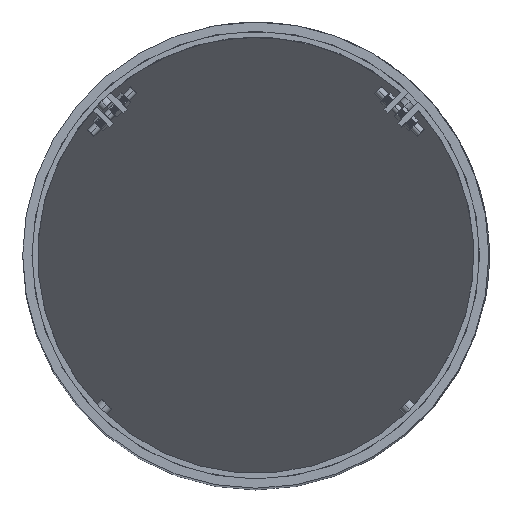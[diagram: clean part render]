
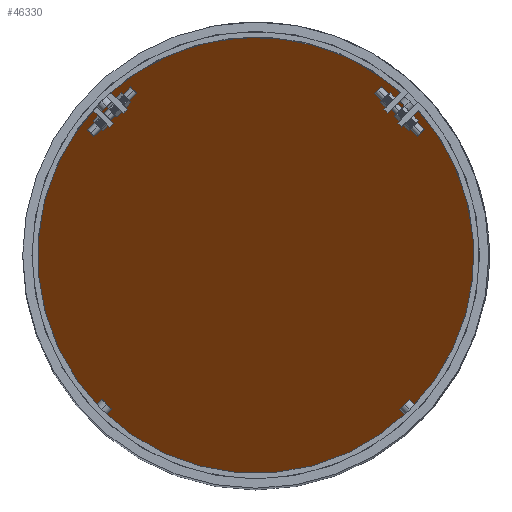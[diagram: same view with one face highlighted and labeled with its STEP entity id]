
A CAD part, top view. The second image highlights one B-rep face of the part: STEP entity #46330.
In plain terms, the highlighted planar face has unit normal (0, -0.707, 0.707).
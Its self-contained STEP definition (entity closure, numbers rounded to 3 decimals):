
#8061 = EDGE_CURVE ( 'NONE', #72363, #20130, #34616, .T. ) ;
#9070 = AXIS2_PLACEMENT_3D ( 'NONE', #50317, #44066, #18854 ) ;
#15579 =( BOUNDED_CURVE ( )  B_SPLINE_CURVE ( 3, ( #73803, #23721, #61850, #62252 ),
 .UNSPECIFIED., .F., .F. ) 
 B_SPLINE_CURVE_WITH_KNOTS ( ( 4, 4 ),
 ( 1.571, 4.712 ),
 .UNSPECIFIED. ) 
 CURVE ( )  GEOMETRIC_REPRESENTATION_ITEM ( )  RATIONAL_B_SPLINE_CURVE ( ( 1., 0.333, 0.333, 1. ) ) 
 REPRESENTATION_ITEM ( '' )  );
#17725 = CARTESIAN_POINT ( 'NONE',  ( -237., 0., 549.328 ) ) ;
#18454 = PLANE ( 'NONE',  #9070 ) ;
#18854 = DIRECTION ( 'NONE',  ( 0., 0.707, 0.707 ) ) ;
#20130 = VERTEX_POINT ( 'NONE', #48321 ) ;
#23721 = CARTESIAN_POINT ( 'NONE',  ( 237., 474., 1023.328 ) ) ;
#25703 = ORIENTED_EDGE ( 'NONE', *, *, #60783, .T. ) ;
#27427 = ORIENTED_EDGE ( 'NONE', *, *, #8061, .T. ) ;
#34616 =( BOUNDED_CURVE ( )  B_SPLINE_CURVE ( 3, ( #17725, #80586, #79346, #54963 ),
 .UNSPECIFIED., .F., .T. ) 
 B_SPLINE_CURVE_WITH_KNOTS ( ( 4, 4 ),
 ( 4.712, 7.854 ),
 .UNSPECIFIED. ) 
 CURVE ( )  GEOMETRIC_REPRESENTATION_ITEM ( )  RATIONAL_B_SPLINE_CURVE ( ( 1., 0.333, 0.333, 1. ) ) 
 REPRESENTATION_ITEM ( '' )  );
#44066 = DIRECTION ( 'NONE',  ( 0., 0.707, -0.707 ) ) ;
#46330 = ADVANCED_FACE ( 'NONE', ( #57276 ), #18454, .F. ) ;
#48321 = CARTESIAN_POINT ( 'NONE',  ( 237., 0., 549.328 ) ) ;
#49874 = EDGE_LOOP ( 'NONE', ( #27427, #25703 ) ) ;
#50317 = CARTESIAN_POINT ( 'NONE',  ( 838.36, -274.664, 274.664 ) ) ;
#54963 = CARTESIAN_POINT ( 'NONE',  ( 237., 0., 549.328 ) ) ;
#57259 = CARTESIAN_POINT ( 'NONE',  ( -237., 0., 549.328 ) ) ;
#57276 = FACE_OUTER_BOUND ( 'NONE', #49874, .T. ) ;
#60783 = EDGE_CURVE ( 'NONE', #20130, #72363, #15579, .T. ) ;
#61850 = CARTESIAN_POINT ( 'NONE',  ( -237., 474., 1023.328 ) ) ;
#62252 = CARTESIAN_POINT ( 'NONE',  ( -237., 0., 549.328 ) ) ;
#72363 = VERTEX_POINT ( 'NONE', #57259 ) ;
#73803 = CARTESIAN_POINT ( 'NONE',  ( 237., 0., 549.328 ) ) ;
#79346 = CARTESIAN_POINT ( 'NONE',  ( 237., -474., 75.328 ) ) ;
#80586 = CARTESIAN_POINT ( 'NONE',  ( -237., -474., 75.328 ) ) ;
